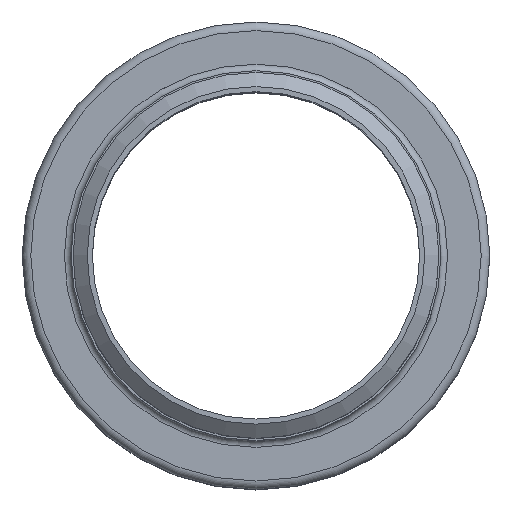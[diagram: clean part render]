
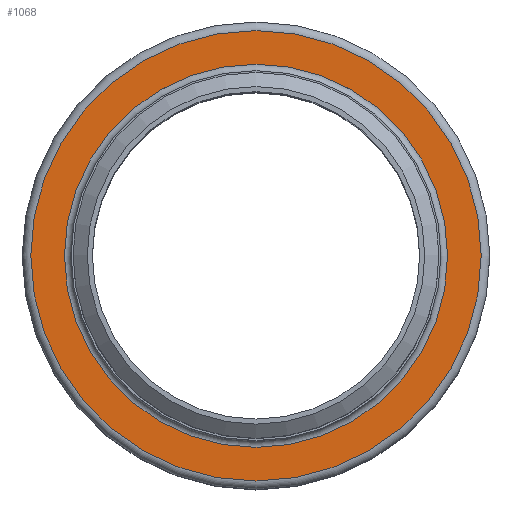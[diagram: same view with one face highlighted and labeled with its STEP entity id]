
A CAD part, top view. The second image highlights one B-rep face of the part: STEP entity #1068.
In plain terms, the highlighted planar face has unit normal (0, 0, 1).
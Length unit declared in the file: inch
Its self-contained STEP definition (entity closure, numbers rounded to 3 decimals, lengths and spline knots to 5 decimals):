
#102=FACE_BOUND('',#282,.T.);
#171=FACE_OUTER_BOUND('',#281,.T.);
#281=EDGE_LOOP('',(#824));
#282=EDGE_LOOP('',(#825));
#402=CIRCLE('',#1264,2.35575);
#403=CIRCLE('',#1266,2.76925);
#491=VERTEX_POINT('',#1935);
#492=VERTEX_POINT('',#1939);
#606=EDGE_CURVE('',#491,#491,#402,.T.);
#607=EDGE_CURVE('',#492,#492,#403,.T.);
#824=ORIENTED_EDGE('',*,*,#607,.F.);
#825=ORIENTED_EDGE('',*,*,#606,.T.);
#918=PLANE('',#1265);
#1068=ADVANCED_FACE('',(#171,#102),#918,.T.);
#1264=AXIS2_PLACEMENT_3D('',#1937,#1621,#1622);
#1265=AXIS2_PLACEMENT_3D('',#1938,#1623,#1624);
#1266=AXIS2_PLACEMENT_3D('',#1940,#1625,#1626);
#1621=DIRECTION('center_axis',(0.,0.,
-1.));
#1622=DIRECTION('ref_axis',(1.,0.,0.));
#1623=DIRECTION('center_axis',(0.,0.,
1.));
#1624=DIRECTION('ref_axis',(1.,0.,0.));
#1625=DIRECTION('center_axis',(0.,0.,
-1.));
#1626=DIRECTION('ref_axis',(1.,0.,0.));
#1935=CARTESIAN_POINT('',(2.35575,0.,-1.58175));
#1937=CARTESIAN_POINT('Origin',(0.,0.,
-1.58175));
#1938=CARTESIAN_POINT('Origin',(0.,2.76925,-1.58175));
#1939=CARTESIAN_POINT('',(2.76925,0.,-1.58175));
#1940=CARTESIAN_POINT('Origin',(0.,0.,
-1.58175));
